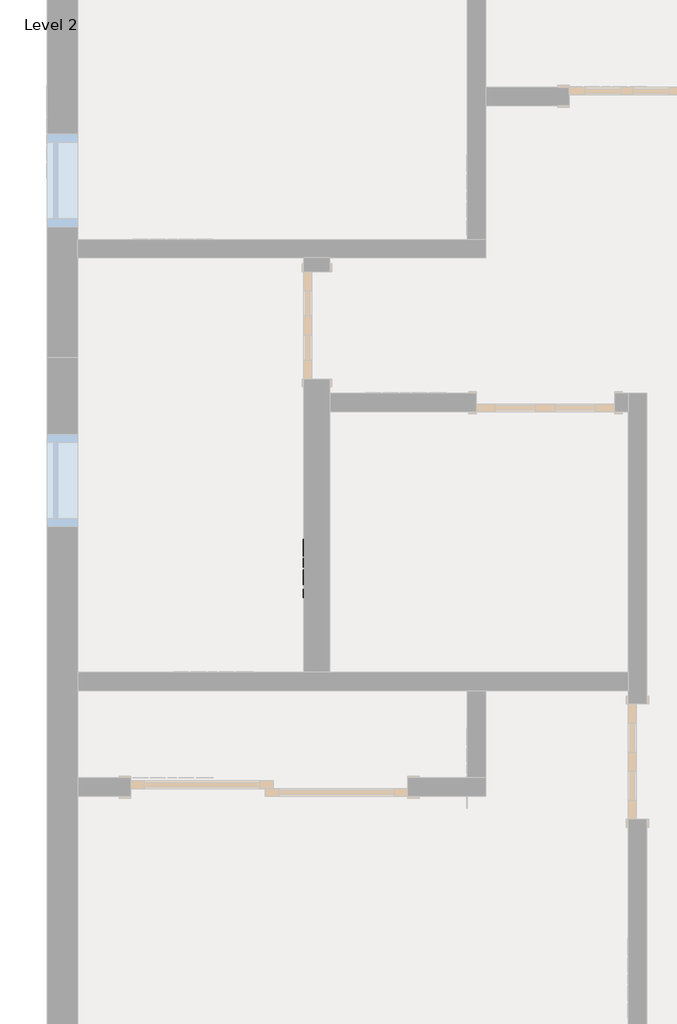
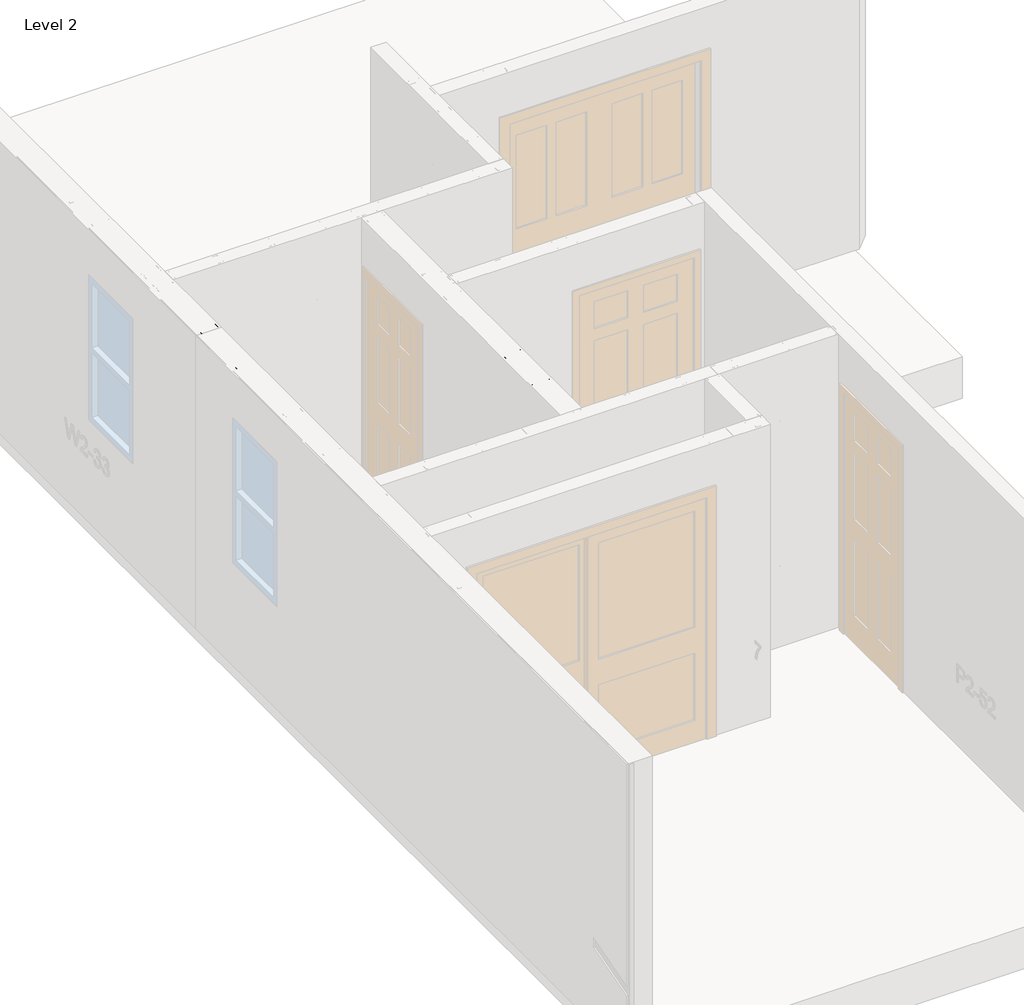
# One storey, part 11 of 46: 6 columns, 2 beams, 1 fastener.
"""IFC4 building model written with IfcOpenShell, lengths in millimetres."""

from ifc_helpers import new_model, si_unit, point, frame, origin, place, context, project, spatial, circle_curve, ellipse_curve, trimmed, transform, mapped, element, save
from ifc_brep_helpers import plane_surface, extruded_surface, advanced_brep
from components import beam_550nf150_33_ca42a238, beam_550nf150_43_6e52a138, panellabel_7068c47f

model = new_model("IFC4")

# Units and contexts
model_context = context("Model", 3, world=origin())
ifc_project = project(units=[si_unit("LENGTHUNIT", "METRE", prefix="MILLI")], contexts=[model_context])

# Site, building, storey
site = spatial("IfcSite", under=ifc_project)
building = spatial("IfcBuilding", under=site)
storey = spatial("IfcBuildingStorey", under=building, Name="Level 2", Elevation=3060.7)

# Beams
placement = place(None, origin())
beam_550nf150_33_shape = beam_550nf150_33_ca42a238(model_context)
element("IfcBeam", 1, ObjectType="BIMSF-SSMA-S : 550NF150-33", at=placement, inside=storey, context=model_context, shape_type="MappedRepresentation", body=[
    mapped(beam_550nf150_33_shape, transform((-13527.2163349, 6789.070971, 3076.575), x_axis=(0.0, 1.0000000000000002, 0.0), y_axis=(0.0, 0.0, -1.0000000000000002), z_axis=(-1.0000000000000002, 0.0, 0.0))),
])
beam_550nf150_43_shape = beam_550nf150_43_6e52a138(model_context)
element("IfcBeam", 2, ObjectType="BIMSF-SSMA-S : 550NF150-43", at=placement, inside=storey, context=model_context, shape_type="MappedRepresentation", body=[
    mapped(beam_550nf150_43_shape, transform((-15194.0913349, 7096.252221, 3905.25), x_axis=(0.0, 1.0, 0.0), y_axis=(0.0, 0.0, 1.0), z_axis=(1.0, 0.0, 0.0))),
])

# Columns
element("IfcColumn", 3, ObjectType="BIMSF-SSMA-S-Column : 550NF150-33", at=placement, inside=storey, context=model_context, shape_type="AdvancedBrep", body=[
    advanced_brep(
    [(-13457.3663349, 6200.902221, 3061.5929687), (-13597.0663349, 6200.902221, 3061.5929687), (-13597.0663349, 6239.002221, 3061.5929687), (-13591.4088191, 6239.002221, 3061.5929687), (-13591.4088191, 6238.1199052, 3061.5929687), (-13596.1840191, 6238.1199052, 3061.5929687), (-13596.1840191, 6201.7845367, 3061.5929687), (-13458.2486507, 6201.7845367, 3061.5929687), (-13458.2486507, 6238.1199052, 3061.5929687), (-13463.0238507, 6238.1199052, 3061.5929687), (-13463.0238507, 6239.002221, 3061.5929687), (-13457.3663349, 6239.002221, 3061.5929687), (-13457.3663349, 6200.902221, 5523.6070313), (-13597.0663349, 6200.902221, 5523.6070313), (-13539.9163349, 6200.902221, 3671.1929687), (-13514.5163349, 6200.902221, 3671.1929687), (-13539.9163349, 6200.902221, 4890.3929687), (-13514.5163349, 6200.902221, 4890.3929687), (-13597.0663349, 6239.002221, 5523.6070313), (-13591.4088191, 6239.002221, 5523.6070313), (-13591.4088191, 6238.1199052, 5523.6070313), (-13596.1840191, 6238.1199052, 5523.6070313), (-13596.1840191, 6201.7845367, 5523.6070313), (-13458.2486507, 6201.7845367, 5523.6070313), (-13514.5163349, 6201.7845367, 3671.1929688), (-13539.9163349, 6201.7845367, 3671.1929688), (-13514.5163349, 6201.7845367, 4890.3929687), (-13539.9163349, 6201.7845367, 4890.3929687), (-13458.2486507, 6238.1199052, 5523.6070313), (-13463.0238507, 6238.1199052, 5523.6070313), (-13463.0238507, 6239.002221, 5523.6070313), (-13457.3663349, 6239.002221, 5523.6070313)],
    [
        (0, 1),
        (1, 2),
        (2, 3),
        (3, 4),
        (4, 5),
        (5, 6),
        (6, 7),
        (7, 8),
        (8, 9),
        (9, 10),
        (10, 11),
        (11, 0),
        (0, 12),
        (12, 13),
        (13, 1),
        (14, 15, circle_curve(frame((-13527.2163349, 6200.902221, 3671.1929688), z_axis=(0.0, 1.0, 0.0), x_axis=(-1.0, 0.0, 0.0)), 12.7)),
        (15, 14, circle_curve(frame((-13527.2163349, 6200.902221, 3671.1929688), z_axis=(0.0, 1.0, 0.0), x_axis=(-1.0, 0.0, 0.0)), 12.7)),
        (16, 17, circle_curve(frame((-13527.2163349, 6200.902221, 4890.3929687), z_axis=(0.0, 1.0, 0.0), x_axis=(-1.0, 0.0, 0.0)), 12.7)),
        (17, 16, circle_curve(frame((-13527.2163349, 6200.902221, 4890.3929687), z_axis=(0.0, 1.0, 0.0), x_axis=(-1.0, 0.0, 0.0)), 12.7)),
        (13, 18),
        (18, 2),
        (18, 19),
        (19, 3),
        (19, 20),
        (20, 4),
        (20, 21),
        (21, 5),
        (21, 22),
        (22, 6),
        (22, 23),
        (23, 7),
        (24, 25, circle_curve(frame((-13527.2163349, 6201.7845367, 3671.1929687), z_axis=(0.0, -1.0, 0.0), x_axis=(-1.0, 0.0, 0.0)), 12.7)),
        (25, 24, circle_curve(frame((-13527.2163349, 6201.7845367, 3671.1929687), z_axis=(0.0, -1.0, 0.0), x_axis=(-1.0, 0.0, 0.0)), 12.7)),
        (26, 27, circle_curve(frame((-13527.2163349, 6201.7845367, 4890.3929687), z_axis=(0.0, -1.0, 0.0), x_axis=(-1.0, 0.0, 0.0)), 12.7)),
        (27, 26, circle_curve(frame((-13527.2163349, 6201.7845367, 4890.3929687), z_axis=(0.0, -1.0, 0.0), x_axis=(-1.0, 0.0, 0.0)), 12.7)),
        (23, 28),
        (28, 8),
        (28, 29),
        (29, 9),
        (29, 30),
        (30, 10),
        (30, 31),
        (31, 11),
        (31, 12),
        (24, 15),
        (14, 25),
        (26, 17),
        (16, 27),
    ],
    [
        plane_surface(frame((-13457.3663349, 6200.902221, 3061.5929687), z_axis=(0.0, 0.0, -1.0), x_axis=(0.0, -1.0, 0.0))),
        plane_surface(frame((-13597.0663349, 6200.902221, 5523.6070313), z_axis=(0.0, -1.0, 0.0), x_axis=(0.0, 0.0, -1.0))),
        plane_surface(frame((-13597.0663349, 6239.002221, 5523.6070313), z_axis=(-1.0, 0.0, 0.0), x_axis=(0.0, 0.0, -1.0))),
        plane_surface(frame((-13591.4088191, 6239.002221, 5523.6070313), z_axis=(0.0, 1.0, 0.0), x_axis=(0.0, 0.0, -1.0))),
        plane_surface(frame((-13591.4088191, 6238.1199052, 5523.6070313), z_axis=(1.0, 0.0, 0.0), x_axis=(0.0, 0.0, -1.0))),
        plane_surface(frame((-13596.1840191, 6238.1199052, 5523.6070313), z_axis=(0.0, -1.0, 0.0), x_axis=(0.0, 0.0, -1.0))),
        plane_surface(frame((-13596.1840191, 6201.7845367, 5523.6070313), z_axis=(1.0, 0.0, 0.0), x_axis=(0.0, 0.0, -1.0))),
        plane_surface(frame((-13458.2486507, 6201.7845367, 5523.6070313), z_axis=(0.0, 1.0, 0.0), x_axis=(0.0, 0.0, -1.0))),
        plane_surface(frame((-13458.2486507, 6238.1199052, 5523.6070313), z_axis=(-1.0, 0.0, 0.0), x_axis=(0.0, 0.0, -1.0))),
        plane_surface(frame((-13463.0238507, 6238.1199052, 5523.6070313), z_axis=(0.0, -1.0, 0.0), x_axis=(0.0, 0.0, -1.0))),
        plane_surface(frame((-13463.0238507, 6239.002221, 5523.6070313), z_axis=(-1.0, 0.0, 0.0), x_axis=(0.0, 0.0, -1.0))),
        plane_surface(frame((-13457.3663349, 6239.002221, 5523.6070313), z_axis=(0.0, 1.0, 0.0), x_axis=(0.0, 0.0, -1.0))),
        plane_surface(frame((-13457.3663349, 6200.902221, 5523.6070313), z_axis=(1.0, 0.0, 0.0), x_axis=(0.0, 0.0, -1.0))),
        plane_surface(frame((-13457.3663349, 6200.902221, 5523.6070313), z_axis=(0.0, 0.0, 1.0), x_axis=(0.0, 1.0, 0.0))),
        extruded_surface(trimmed(ellipse_curve(frame((-13527.2163349, 8681.9662835, 3671.1929688), z_axis=(0.0, -1.0, 0.0), x_axis=(-1.0, 0.0, 0.0)), 12.7, 12.7), [point((-13514.5163349, 8681.9662835, 3671.1929688))], [point((-13539.9163349, 8681.9662835, 3671.1929688))], True, "CARTESIAN"), (0.0, 4924.028125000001, 0.0), 4924.028125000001),
        extruded_surface(trimmed(ellipse_curve(frame((-13527.2163349, 8681.9662835, 3671.1929688), z_axis=(0.0, -1.0, 0.0), x_axis=(-1.0, 0.0, 0.0)), 12.7, 12.7), [point((-13539.9163349, 8681.9662835, 3671.1929688))], [point((-13514.5163349, 8681.9662835, 3671.1929688))], True, "CARTESIAN"), (0.0, 4924.028125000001, 0.0), 4924.028125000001),
        extruded_surface(trimmed(ellipse_curve(frame((-13527.2163349, 8681.9662835, 4890.3929687), z_axis=(0.0, -1.0, 0.0), x_axis=(-1.0, 0.0, 0.0)), 12.7, 12.7), [point((-13514.5163349, 8681.9662835, 4890.3929687))], [point((-13539.9163349, 8681.9662835, 4890.3929687))], True, "CARTESIAN"), (0.0, 4924.028125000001, 0.0), 4924.028125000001),
        extruded_surface(trimmed(ellipse_curve(frame((-13527.2163349, 8681.9662835, 4890.3929687), z_axis=(0.0, -1.0, 0.0), x_axis=(-1.0, 0.0, 0.0)), 12.7, 12.7), [point((-13539.9163349, 8681.9662835, 4890.3929687))], [point((-13514.5163349, 8681.9662835, 4890.3929687))], True, "CARTESIAN"), (0.0, 4924.028125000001, 0.0), 4924.028125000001),
    ],
    [
        (0, [[1, 2, 3, 4, 5, 6, 7, 8, 9, 10, 11, 12]]),
        (1, [[-1, 13, 14, 15], [16, 17], [18, 19]]),
        (2, [[-2, -15, 20, 21]]),
        (3, [[-3, -21, 22, 23]]),
        (4, [[-4, -23, 24, 25]]),
        (5, [[-5, -25, 26, 27]]),
        (6, [[-6, -27, 28, 29]]),
        (7, [[-7, -29, 30, 31], [32, 33], [34, 35]]),
        (8, [[-8, -31, 36, 37]]),
        (9, [[-9, -37, 38, 39]]),
        (10, [[-10, -39, 40, 41]]),
        (11, [[-11, -41, 42, 43]]),
        (12, [[-12, -43, 44, -13]]),
        (13, [[-14, -44, -42, -40, -38, -36, -30, -28, -26, -24, -22, -20]]),
        (14, [[45, -16, 46, -32]]),
        (15, [[-45, -33, -46, -17]]),
        (16, [[47, -18, 48, -34]]),
        (17, [[-47, -35, -48, -19]]),
    ],
),
])
element("IfcColumn", 4, ObjectType="BIMSF-SSMA-S-Column : 550NF150-33", at=placement, inside=storey, context=model_context, shape_type="AdvancedBrep", body=[
    advanced_brep(
    [(-13457.3663349, 6607.302221, 3061.5929687), (-13597.0663349, 6607.302221, 3061.5929687), (-13597.0663349, 6645.402221, 3061.5929687), (-13591.4088191, 6645.402221, 3061.5929687), (-13591.4088191, 6644.5199052, 3061.5929687), (-13596.1840191, 6644.5199052, 3061.5929687), (-13596.1840191, 6608.1845367, 3061.5929687), (-13458.2486507, 6608.1845367, 3061.5929687), (-13458.2486507, 6644.5199052, 3061.5929687), (-13463.0238507, 6644.5199052, 3061.5929687), (-13463.0238507, 6645.402221, 3061.5929687), (-13457.3663349, 6645.402221, 3061.5929687), (-13457.3663349, 6607.302221, 5523.6070313), (-13597.0663349, 6607.302221, 5523.6070313), (-13539.9163349, 6607.302221, 3671.1929687), (-13514.5163349, 6607.302221, 3671.1929687), (-13539.9163349, 6607.302221, 4890.3929687), (-13514.5163349, 6607.302221, 4890.3929687), (-13597.0663349, 6645.402221, 5523.6070313), (-13591.4088191, 6645.402221, 5523.6070313), (-13591.4088191, 6644.5199052, 5523.6070313), (-13596.1840191, 6644.5199052, 5523.6070313), (-13596.1840191, 6608.1845367, 5523.6070313), (-13458.2486507, 6608.1845367, 5523.6070313), (-13514.5163349, 6608.1845367, 3671.1929688), (-13539.9163349, 6608.1845367, 3671.1929688), (-13514.5163349, 6608.1845367, 4890.3929687), (-13539.9163349, 6608.1845367, 4890.3929687), (-13458.2486507, 6644.5199052, 5523.6070313), (-13463.0238507, 6644.5199052, 5523.6070313), (-13463.0238507, 6645.402221, 5523.6070313), (-13457.3663349, 6645.402221, 5523.6070313)],
    [
        (0, 1),
        (1, 2),
        (2, 3),
        (3, 4),
        (4, 5),
        (5, 6),
        (6, 7),
        (7, 8),
        (8, 9),
        (9, 10),
        (10, 11),
        (11, 0),
        (0, 12),
        (12, 13),
        (13, 1),
        (14, 15, circle_curve(frame((-13527.2163349, 6607.302221, 3671.1929688), z_axis=(0.0, 1.0, 0.0), x_axis=(-1.0, 0.0, 0.0)), 12.7)),
        (15, 14, circle_curve(frame((-13527.2163349, 6607.302221, 3671.1929688), z_axis=(0.0, 1.0, 0.0), x_axis=(-1.0, 0.0, 0.0)), 12.7)),
        (16, 17, circle_curve(frame((-13527.2163349, 6607.302221, 4890.3929687), z_axis=(0.0, 1.0, 0.0), x_axis=(-1.0, 0.0, 0.0)), 12.7)),
        (17, 16, circle_curve(frame((-13527.2163349, 6607.302221, 4890.3929687), z_axis=(0.0, 1.0, 0.0), x_axis=(-1.0, 0.0, 0.0)), 12.7)),
        (13, 18),
        (18, 2),
        (18, 19),
        (19, 3),
        (19, 20),
        (20, 4),
        (20, 21),
        (21, 5),
        (21, 22),
        (22, 6),
        (22, 23),
        (23, 7),
        (24, 25, circle_curve(frame((-13527.2163349, 6608.1845367, 3671.1929687), z_axis=(0.0, -1.0, 0.0), x_axis=(-1.0, 0.0, 0.0)), 12.7)),
        (25, 24, circle_curve(frame((-13527.2163349, 6608.1845367, 3671.1929687), z_axis=(0.0, -1.0, 0.0), x_axis=(-1.0, 0.0, 0.0)), 12.7)),
        (26, 27, circle_curve(frame((-13527.2163349, 6608.1845367, 4890.3929687), z_axis=(0.0, -1.0, 0.0), x_axis=(-1.0, 0.0, 0.0)), 12.7)),
        (27, 26, circle_curve(frame((-13527.2163349, 6608.1845367, 4890.3929687), z_axis=(0.0, -1.0, 0.0), x_axis=(-1.0, 0.0, 0.0)), 12.7)),
        (23, 28),
        (28, 8),
        (28, 29),
        (29, 9),
        (29, 30),
        (30, 10),
        (30, 31),
        (31, 11),
        (31, 12),
        (24, 15),
        (14, 25),
        (26, 17),
        (16, 27),
    ],
    [
        plane_surface(frame((-13457.3663349, 6607.302221, 3061.5929687), z_axis=(0.0, 0.0, -1.0), x_axis=(0.0, -1.0, 0.0))),
        plane_surface(frame((-13597.0663349, 6607.302221, 5523.6070313), z_axis=(0.0, -1.0, 0.0), x_axis=(0.0, 0.0, -1.0))),
        plane_surface(frame((-13597.0663349, 6645.402221, 5523.6070313), z_axis=(-1.0, 0.0, 0.0), x_axis=(0.0, 0.0, -1.0))),
        plane_surface(frame((-13591.4088191, 6645.402221, 5523.6070313), z_axis=(0.0, 1.0, 0.0), x_axis=(0.0, 0.0, -1.0))),
        plane_surface(frame((-13591.4088191, 6644.5199052, 5523.6070313), z_axis=(1.0, 0.0, 0.0), x_axis=(0.0, 0.0, -1.0))),
        plane_surface(frame((-13596.1840191, 6644.5199052, 5523.6070313), z_axis=(0.0, -1.0, 0.0), x_axis=(0.0, 0.0, -1.0))),
        plane_surface(frame((-13596.1840191, 6608.1845367, 5523.6070313), z_axis=(1.0, 0.0, 0.0), x_axis=(0.0, 0.0, -1.0))),
        plane_surface(frame((-13458.2486507, 6608.1845367, 5523.6070313), z_axis=(0.0, 1.0, 0.0), x_axis=(0.0, 0.0, -1.0))),
        plane_surface(frame((-13458.2486507, 6644.5199052, 5523.6070313), z_axis=(-1.0, 0.0, 0.0), x_axis=(0.0, 0.0, -1.0))),
        plane_surface(frame((-13463.0238507, 6644.5199052, 5523.6070313), z_axis=(0.0, -1.0, 0.0), x_axis=(0.0, 0.0, -1.0))),
        plane_surface(frame((-13463.0238507, 6645.402221, 5523.6070313), z_axis=(-1.0, 0.0, 0.0), x_axis=(0.0, 0.0, -1.0))),
        plane_surface(frame((-13457.3663349, 6645.402221, 5523.6070313), z_axis=(0.0, 1.0, 0.0), x_axis=(0.0, 0.0, -1.0))),
        plane_surface(frame((-13457.3663349, 6607.302221, 5523.6070313), z_axis=(1.0, 0.0, 0.0), x_axis=(0.0, 0.0, -1.0))),
        plane_surface(frame((-13457.3663349, 6607.302221, 5523.6070313), z_axis=(0.0, 0.0, 1.0), x_axis=(0.0, 1.0, 0.0))),
        extruded_surface(trimmed(ellipse_curve(frame((-13527.2163349, 9088.3662835, 3671.1929688), z_axis=(0.0, -1.0, 0.0), x_axis=(-1.0, 0.0, 0.0)), 12.7, 12.7), [point((-13514.5163349, 9088.3662835, 3671.1929688))], [point((-13539.9163349, 9088.3662835, 3671.1929688))], True, "CARTESIAN"), (0.0, 4924.028125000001, 0.0), 4924.028125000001),
        extruded_surface(trimmed(ellipse_curve(frame((-13527.2163349, 9088.3662835, 3671.1929688), z_axis=(0.0, -1.0, 0.0), x_axis=(-1.0, 0.0, 0.0)), 12.7, 12.7), [point((-13539.9163349, 9088.3662835, 3671.1929688))], [point((-13514.5163349, 9088.3662835, 3671.1929688))], True, "CARTESIAN"), (0.0, 4924.028125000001, 0.0), 4924.028125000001),
        extruded_surface(trimmed(ellipse_curve(frame((-13527.2163349, 9088.3662835, 4890.3929687), z_axis=(0.0, -1.0, 0.0), x_axis=(-1.0, 0.0, 0.0)), 12.7, 12.7), [point((-13514.5163349, 9088.3662835, 4890.3929687))], [point((-13539.9163349, 9088.3662835, 4890.3929687))], True, "CARTESIAN"), (0.0, 4924.028125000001, 0.0), 4924.028125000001),
        extruded_surface(trimmed(ellipse_curve(frame((-13527.2163349, 9088.3662835, 4890.3929687), z_axis=(0.0, -1.0, 0.0), x_axis=(-1.0, 0.0, 0.0)), 12.7, 12.7), [point((-13539.9163349, 9088.3662835, 4890.3929687))], [point((-13514.5163349, 9088.3662835, 4890.3929687))], True, "CARTESIAN"), (0.0, 4924.028125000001, 0.0), 4924.028125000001),
    ],
    [
        (0, [[1, 2, 3, 4, 5, 6, 7, 8, 9, 10, 11, 12]]),
        (1, [[-1, 13, 14, 15], [16, 17], [18, 19]]),
        (2, [[-2, -15, 20, 21]]),
        (3, [[-3, -21, 22, 23]]),
        (4, [[-4, -23, 24, 25]]),
        (5, [[-5, -25, 26, 27]]),
        (6, [[-6, -27, 28, 29]]),
        (7, [[-7, -29, 30, 31], [32, 33], [34, 35]]),
        (8, [[-8, -31, 36, 37]]),
        (9, [[-9, -37, 38, 39]]),
        (10, [[-10, -39, 40, 41]]),
        (11, [[-11, -41, 42, 43]]),
        (12, [[-12, -43, 44, -13]]),
        (13, [[-14, -44, -42, -40, -38, -36, -30, -28, -26, -24, -22, -20]]),
        (14, [[45, -16, 46, -32]]),
        (15, [[-45, -33, -46, -17]]),
        (16, [[47, -18, 48, -34]]),
        (17, [[-47, -35, -48, -19]]),
    ],
),
])
element("IfcColumn", 5, ObjectType="BIMSF-SSMA-S-Column : 550NF150-43", at=placement, inside=storey, context=model_context, shape_type="AdvancedBrep", body=[
    advanced_brep(
    [(-15124.2413349, 7401.052221, 3061.5929687), (-15263.9413349, 7401.052221, 3061.5929687), (-15263.9413349, 7439.152221, 3061.5929687), (-15258.0164507, 7439.152221, 3061.5929687), (-15258.0164507, 7438.0025367, 3061.5929687), (-15262.7916507, 7438.0025367, 3061.5929687), (-15262.7916507, 7402.2019052, 3061.5929687), (-15125.3910191, 7402.2019052, 3061.5929687), (-15125.3910191, 7438.0025367, 3061.5929687), (-15130.1662191, 7438.0025367, 3061.5929687), (-15130.1662191, 7439.152221, 3061.5929687), (-15124.2413349, 7439.152221, 3061.5929687), (-15124.2413349, 7401.052221, 5523.6070313), (-15263.9413349, 7401.052221, 5523.6070313), (-15206.7913349, 7401.052221, 3671.1929688), (-15181.3913349, 7401.052221, 3671.1929688), (-15206.7913349, 7401.052221, 4890.3929688), (-15181.3913349, 7401.052221, 4890.3929687), (-15263.9413349, 7439.152221, 5523.6070313), (-15258.0164507, 7439.152221, 5523.6070313), (-15258.0164507, 7438.0025367, 5523.6070313), (-15262.7916507, 7438.0025367, 5523.6070313), (-15262.7916507, 7402.2019052, 5523.6070313), (-15125.3910191, 7402.2019052, 5523.6070313), (-15181.3913349, 7402.2019052, 3671.1929688), (-15206.7913349, 7402.2019052, 3671.1929688), (-15181.3913349, 7402.2019052, 4890.3929688), (-15206.7913349, 7402.2019052, 4890.3929688), (-15125.3910191, 7438.0025367, 5523.6070313), (-15130.1662191, 7438.0025367, 5523.6070313), (-15130.1662191, 7439.152221, 5523.6070313), (-15124.2413349, 7439.152221, 5523.6070313)],
    [
        (0, 1),
        (1, 2),
        (2, 3),
        (3, 4),
        (4, 5),
        (5, 6),
        (6, 7),
        (7, 8),
        (8, 9),
        (9, 10),
        (10, 11),
        (11, 0),
        (0, 12),
        (12, 13),
        (13, 1),
        (14, 15, circle_curve(frame((-15194.0913349, 7401.052221, 3671.1929687), z_axis=(0.0, 1.0, 0.0), x_axis=(-1.0, 0.0, 0.0)), 12.7)),
        (15, 14, circle_curve(frame((-15194.0913349, 7401.052221, 3671.1929688), z_axis=(0.0, 1.0, 0.0), x_axis=(-1.0, 0.0, 0.0)), 12.7)),
        (16, 17, circle_curve(frame((-15194.0913349, 7401.052221, 4890.3929687), z_axis=(0.0, 1.0, 0.0), x_axis=(-1.0, 0.0, 0.0)), 12.7)),
        (17, 16, circle_curve(frame((-15194.0913349, 7401.052221, 4890.3929687), z_axis=(0.0, 1.0, 0.0), x_axis=(-1.0, 0.0, 0.0)), 12.7)),
        (13, 18),
        (18, 2),
        (18, 19),
        (19, 3),
        (19, 20),
        (20, 4),
        (20, 21),
        (21, 5),
        (21, 22),
        (22, 6),
        (22, 23),
        (23, 7),
        (24, 25, circle_curve(frame((-15194.0913349, 7402.2019052, 3671.1929688), z_axis=(0.0, -1.0, 0.0), x_axis=(-1.0, 0.0, 0.0)), 12.7)),
        (25, 24, circle_curve(frame((-15194.0913349, 7402.2019052, 3671.1929687), z_axis=(0.0, -1.0, 0.0), x_axis=(-1.0, 0.0, 0.0)), 12.7)),
        (26, 27, circle_curve(frame((-15194.0913349, 7402.2019052, 4890.3929687), z_axis=(0.0, -1.0, 0.0), x_axis=(-1.0, 0.0, 0.0)), 12.7)),
        (27, 26, circle_curve(frame((-15194.0913349, 7402.2019052, 4890.3929687), z_axis=(0.0, -1.0, 0.0), x_axis=(-1.0, 0.0, 0.0)), 12.7)),
        (23, 28),
        (28, 8),
        (28, 29),
        (29, 9),
        (29, 30),
        (30, 10),
        (30, 31),
        (31, 11),
        (31, 12),
        (24, 15),
        (14, 25),
        (26, 17),
        (16, 27),
    ],
    [
        plane_surface(frame((-15124.2413349, 7401.052221, 3061.5929687), z_axis=(0.0, 0.0, -1.0), x_axis=(0.0, -1.0, 0.0))),
        plane_surface(frame((-15263.9413349, 7401.052221, 5523.6070313), z_axis=(0.0, -1.0, 0.0), x_axis=(0.0, 0.0, -1.0))),
        plane_surface(frame((-15263.9413349, 7439.152221, 5523.6070313), z_axis=(-1.0, 0.0, 0.0), x_axis=(0.0, 0.0, -1.0))),
        plane_surface(frame((-15258.0164507, 7439.152221, 5523.6070313), z_axis=(0.0, 1.0, 0.0), x_axis=(0.0, 0.0, -1.0))),
        plane_surface(frame((-15258.0164507, 7438.0025367, 5523.6070313), z_axis=(1.0, 0.0, 0.0), x_axis=(0.0, 0.0, -1.0))),
        plane_surface(frame((-15262.7916507, 7438.0025367, 5523.6070313), z_axis=(0.0, -1.0, 0.0), x_axis=(0.0, 0.0, -1.0))),
        plane_surface(frame((-15262.7916507, 7402.2019052, 5523.6070313), z_axis=(1.0, 0.0, 0.0), x_axis=(0.0, 0.0, -1.0))),
        plane_surface(frame((-15125.3910191, 7402.2019052, 5523.6070313), z_axis=(0.0, 1.0, 0.0), x_axis=(0.0, 0.0, -1.0))),
        plane_surface(frame((-15125.3910191, 7438.0025367, 5523.6070313), z_axis=(-1.0, 0.0, 0.0), x_axis=(0.0, 0.0, -1.0))),
        plane_surface(frame((-15130.1662191, 7438.0025367, 5523.6070313), z_axis=(0.0, -1.0, 0.0), x_axis=(0.0, 0.0, -1.0))),
        plane_surface(frame((-15130.1662191, 7439.152221, 5523.6070313), z_axis=(-1.0, 0.0, 0.0), x_axis=(0.0, 0.0, -1.0))),
        plane_surface(frame((-15124.2413349, 7439.152221, 5523.6070313), z_axis=(0.0, 1.0, 0.0), x_axis=(0.0, 0.0, -1.0))),
        plane_surface(frame((-15124.2413349, 7401.052221, 5523.6070313), z_axis=(1.0, 0.0, 0.0), x_axis=(0.0, 0.0, -1.0))),
        plane_surface(frame((-15124.2413349, 7401.052221, 5523.6070313), z_axis=(0.0, 0.0, 1.0), x_axis=(0.0, 1.0, 0.0))),
        extruded_surface(trimmed(ellipse_curve(frame((-15194.0913349, 9882.1162835, 3671.1929688), z_axis=(0.0, -1.0, 0.0), x_axis=(-1.0, 0.0, 0.0)), 12.7, 12.7), [point((-15181.3913349, 9882.1162835, 3671.1929688))], [point((-15206.7913349, 9882.1162835, 3671.1929688))], True, "CARTESIAN"), (0.0, 4924.028125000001, 0.0), 4924.028125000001),
        extruded_surface(trimmed(ellipse_curve(frame((-15194.0913349, 9882.1162835, 3671.1929688), z_axis=(0.0, -1.0, 0.0), x_axis=(-1.0, 0.0, 0.0)), 12.7, 12.7), [point((-15206.7913349, 9882.1162835, 3671.1929688))], [point((-15181.3913349, 9882.1162835, 3671.1929688))], True, "CARTESIAN"), (0.0, 4924.028125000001, 0.0), 4924.028125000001),
        extruded_surface(trimmed(ellipse_curve(frame((-15194.0913349, 9882.1162835, 4890.3929687), z_axis=(0.0, -1.0, 0.0), x_axis=(-1.0, 0.0, 0.0)), 12.7, 12.7), [point((-15181.3913349, 9882.1162835, 4890.3929687))], [point((-15206.7913349, 9882.1162835, 4890.3929687))], True, "CARTESIAN"), (0.0, 4924.028125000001, 0.0), 4924.028125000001),
        extruded_surface(trimmed(ellipse_curve(frame((-15194.0913349, 9882.1162835, 4890.3929687), z_axis=(0.0, -1.0, 0.0), x_axis=(-1.0, 0.0, 0.0)), 12.7, 12.7), [point((-15206.7913349, 9882.1162835, 4890.3929687))], [point((-15181.3913349, 9882.1162835, 4890.3929687))], True, "CARTESIAN"), (0.0, 4924.028125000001, 0.0), 4924.028125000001),
    ],
    [
        (0, [[1, 2, 3, 4, 5, 6, 7, 8, 9, 10, 11, 12]]),
        (1, [[-1, 13, 14, 15], [16, 17], [18, 19]]),
        (2, [[-2, -15, 20, 21]]),
        (3, [[-3, -21, 22, 23]]),
        (4, [[-4, -23, 24, 25]]),
        (5, [[-5, -25, 26, 27]]),
        (6, [[-6, -27, 28, 29]]),
        (7, [[-7, -29, 30, 31], [32, 33], [34, 35]]),
        (8, [[-8, -31, 36, 37]]),
        (9, [[-9, -37, 38, 39]]),
        (10, [[-10, -39, 40, 41]]),
        (11, [[-11, -41, 42, 43]]),
        (12, [[-12, -43, 44, -13]]),
        (13, [[-14, -44, -42, -40, -38, -36, -30, -28, -26, -24, -22, -20]]),
        (14, [[45, -16, 46, -32]]),
        (15, [[-45, -33, -46, -17]]),
        (16, [[47, -18, 48, -34]]),
        (17, [[-47, -35, -48, -19]]),
    ],
),
])
element("IfcColumn", 6, ObjectType="BIMSF-SSMA-S-Column : 550NF150-43", at=placement, inside=storey, context=model_context, shape_type="AdvancedBrep", body=[
    advanced_brep(
    [(-15263.9413349, 7962.4815274, 3061.5929687), (-15124.2413349, 7962.4815274, 3061.5929687), (-15124.2413349, 7924.3815274, 3061.5929687), (-15130.1662191, 7924.3815274, 3061.5929687), (-15130.1662191, 7925.5312116, 3061.5929687), (-15125.3910191, 7925.5312116, 3061.5929687), (-15125.3910191, 7961.3318431, 3061.5929687), (-15262.7916507, 7961.3318431, 3061.5929687), (-15262.7916507, 7925.5312116, 3061.5929687), (-15258.0164507, 7925.5312116, 3061.5929687), (-15258.0164507, 7924.3815274, 3061.5929687), (-15263.9413349, 7924.3815274, 3061.5929687), (-15263.9413349, 7962.4815274, 5523.6070313), (-15124.2413349, 7962.4815274, 5523.6070313), (-15181.3913349, 7962.4815274, 3671.1929687), (-15206.7913349, 7962.4815274, 3671.1929687), (-15181.3913349, 7962.4815274, 4890.3929687), (-15206.7913349, 7962.4815274, 4890.3929687), (-15124.2413349, 7924.3815274, 5523.6070313), (-15130.1662191, 7924.3815274, 5523.6070313), (-15130.1662191, 7925.5312116, 5523.6070313), (-15125.3910191, 7925.5312116, 5523.6070313), (-15125.3910191, 7961.3318431, 5523.6070313), (-15262.7916507, 7961.3318431, 5523.6070313), (-15206.7913349, 7961.3318431, 3671.1929688), (-15181.3913349, 7961.3318431, 3671.1929688), (-15206.7913349, 7961.3318431, 4890.3929687), (-15181.3913349, 7961.3318431, 4890.3929687), (-15262.7916507, 7925.5312116, 5523.6070313), (-15258.0164507, 7925.5312116, 5523.6070313), (-15258.0164507, 7924.3815274, 5523.6070313), (-15263.9413349, 7924.3815274, 5523.6070313)],
    [
        (0, 1),
        (1, 2),
        (2, 3),
        (3, 4),
        (4, 5),
        (5, 6),
        (6, 7),
        (7, 8),
        (8, 9),
        (9, 10),
        (10, 11),
        (11, 0),
        (0, 12),
        (12, 13),
        (13, 1),
        (14, 15, circle_curve(frame((-15194.0913349, 7962.4815274, 3671.1929688), z_axis=(0.0, -1.0, 0.0), x_axis=(1.0, 0.0, 0.0)), 12.7)),
        (15, 14, circle_curve(frame((-15194.0913349, 7962.4815274, 3671.1929688), z_axis=(0.0, -1.0, 0.0), x_axis=(1.0, 0.0, 0.0)), 12.7)),
        (16, 17, circle_curve(frame((-15194.0913349, 7962.4815274, 4890.3929687), z_axis=(0.0, -1.0, 0.0), x_axis=(1.0, 0.0, 0.0)), 12.7)),
        (17, 16, circle_curve(frame((-15194.0913349, 7962.4815274, 4890.3929687), z_axis=(0.0, -1.0, 0.0), x_axis=(1.0, 0.0, 0.0)), 12.7)),
        (13, 18),
        (18, 2),
        (18, 19),
        (19, 3),
        (19, 20),
        (20, 4),
        (20, 21),
        (21, 5),
        (21, 22),
        (22, 6),
        (22, 23),
        (23, 7),
        (24, 25, circle_curve(frame((-15194.0913349, 7961.3318431, 3671.1929688), z_axis=(0.0, 1.0, 0.0), x_axis=(1.0, 0.0, 0.0)), 12.7)),
        (25, 24, circle_curve(frame((-15194.0913349, 7961.3318431, 3671.1929688), z_axis=(0.0, 1.0, 0.0), x_axis=(1.0, 0.0, 0.0)), 12.7)),
        (26, 27, circle_curve(frame((-15194.0913349, 7961.3318431, 4890.3929687), z_axis=(0.0, 1.0, 0.0), x_axis=(1.0, 0.0, 0.0)), 12.7)),
        (27, 26, circle_curve(frame((-15194.0913349, 7961.3318431, 4890.3929687), z_axis=(0.0, 1.0, 0.0), x_axis=(1.0, 0.0, 0.0)), 12.7)),
        (23, 28),
        (28, 8),
        (28, 29),
        (29, 9),
        (29, 30),
        (30, 10),
        (30, 31),
        (31, 11),
        (31, 12),
        (24, 15),
        (14, 25),
        (26, 17),
        (16, 27),
    ],
    [
        plane_surface(frame((-15263.9413349, 7962.4815274, 3061.5929687), z_axis=(0.0, 0.0, -1.0), x_axis=(0.0, 1.0, 0.0))),
        plane_surface(frame((-15124.2413349, 7962.4815274, 5523.6070313), z_axis=(0.0, 1.0, 0.0), x_axis=(0.0, 0.0, -1.0))),
        plane_surface(frame((-15124.2413349, 7924.3815274, 5523.6070313), z_axis=(1.0, 0.0, 0.0), x_axis=(0.0, 0.0, -1.0))),
        plane_surface(frame((-15130.1662191, 7924.3815274, 5523.6070313), z_axis=(0.0, -1.0, 0.0), x_axis=(0.0, 0.0, -1.0))),
        plane_surface(frame((-15130.1662191, 7925.5312116, 5523.6070313), z_axis=(-1.0, 0.0, 0.0), x_axis=(0.0, 0.0, -1.0))),
        plane_surface(frame((-15125.3910191, 7925.5312116, 5523.6070313), z_axis=(0.0, 1.0, 0.0), x_axis=(0.0, 0.0, -1.0))),
        plane_surface(frame((-15125.3910191, 7961.3318431, 5523.6070313), z_axis=(-1.0, 0.0, 0.0), x_axis=(0.0, 0.0, -1.0))),
        plane_surface(frame((-15262.7916507, 7961.3318431, 5523.6070313), z_axis=(0.0, -1.0, 0.0), x_axis=(0.0, 0.0, -1.0))),
        plane_surface(frame((-15262.7916507, 7925.5312116, 5523.6070313), z_axis=(1.0, 0.0, 0.0), x_axis=(0.0, 0.0, -1.0))),
        plane_surface(frame((-15258.0164507, 7925.5312116, 5523.6070313), z_axis=(0.0, 1.0, 0.0), x_axis=(0.0, 0.0, -1.0))),
        plane_surface(frame((-15258.0164507, 7924.3815274, 5523.6070313), z_axis=(1.0, 0.0, 0.0), x_axis=(0.0, 0.0, -1.0))),
        plane_surface(frame((-15263.9413349, 7924.3815274, 5523.6070313), z_axis=(0.0, -1.0, 0.0), x_axis=(0.0, 0.0, -1.0))),
        plane_surface(frame((-15263.9413349, 7962.4815274, 5523.6070313), z_axis=(-1.0, 0.0, 0.0), x_axis=(0.0, 0.0, -1.0))),
        plane_surface(frame((-15263.9413349, 7962.4815274, 5523.6070313), z_axis=(0.0, 0.0, 1.0), x_axis=(0.0, -1.0, 0.0))),
        extruded_surface(trimmed(ellipse_curve(frame((-15194.0913349, 5481.4174649, 3671.1929688), z_axis=(0.0, 1.0, 0.0), x_axis=(1.0, 0.0, 0.0)), 12.7, 12.7), [point((-15206.7913349, 5481.4174649, 3671.1929688))], [point((-15181.3913349, 5481.4174649, 3671.1929688))], True, "CARTESIAN"), (0.0, -4924.028125, 0.0), 4924.028125),
        extruded_surface(trimmed(ellipse_curve(frame((-15194.0913349, 5481.4174649, 3671.1929688), z_axis=(0.0, 1.0, 0.0), x_axis=(1.0, 0.0, 0.0)), 12.7, 12.7), [point((-15181.3913349, 5481.4174649, 3671.1929688))], [point((-15206.7913349, 5481.4174649, 3671.1929688))], True, "CARTESIAN"), (0.0, -4924.028125, 0.0), 4924.028125),
        extruded_surface(trimmed(ellipse_curve(frame((-15194.0913349, 5481.4174649, 4890.3929687), z_axis=(0.0, 1.0, 0.0), x_axis=(1.0, 0.0, 0.0)), 12.7, 12.7), [point((-15206.7913349, 5481.4174649, 4890.3929687))], [point((-15181.3913349, 5481.4174649, 4890.3929687))], True, "CARTESIAN"), (0.0, -4924.028125, 0.0), 4924.028125),
        extruded_surface(trimmed(ellipse_curve(frame((-15194.0913349, 5481.4174649, 4890.3929687), z_axis=(0.0, 1.0, 0.0), x_axis=(1.0, 0.0, 0.0)), 12.7, 12.7), [point((-15181.3913349, 5481.4174649, 4890.3929687))], [point((-15206.7913349, 5481.4174649, 4890.3929687))], True, "CARTESIAN"), (0.0, -4924.028125, 0.0), 4924.028125),
    ],
    [
        (0, [[1, 2, 3, 4, 5, 6, 7, 8, 9, 10, 11, 12]]),
        (1, [[-1, 13, 14, 15], [16, 17], [18, 19]]),
        (2, [[-2, -15, 20, 21]]),
        (3, [[-3, -21, 22, 23]]),
        (4, [[-4, -23, 24, 25]]),
        (5, [[-5, -25, 26, 27]]),
        (6, [[-6, -27, 28, 29]]),
        (7, [[-7, -29, 30, 31], [32, 33], [34, 35]]),
        (8, [[-8, -31, 36, 37]]),
        (9, [[-9, -37, 38, 39]]),
        (10, [[-10, -39, 40, 41]]),
        (11, [[-11, -41, 42, 43]]),
        (12, [[-12, -43, 44, -13]]),
        (13, [[-14, -44, -42, -40, -38, -36, -30, -28, -26, -24, -22, -20]]),
        (14, [[45, -16, 46, -32]]),
        (15, [[-45, -33, -46, -17]]),
        (16, [[47, -18, 48, -34]]),
        (17, [[-47, -35, -48, -19]]),
    ],
),
])
element("IfcColumn", 7, ObjectType="BIMSF-SSMA-S-Column : 550NF150-43", at=placement, inside=storey, context=model_context, shape_type="AdvancedBrep", body=[
    advanced_brep(
    [(-15124.2413349, 6810.502221, 3061.5929687), (-15263.9413349, 6810.502221, 3061.5929687), (-15263.9413349, 6848.602221, 3061.5929687), (-15258.0164507, 6848.602221, 3061.5929687), (-15258.0164507, 6847.4525367, 3061.5929687), (-15262.7916507, 6847.4525367, 3061.5929687), (-15262.7916507, 6811.6519052, 3061.5929687), (-15125.3910191, 6811.6519052, 3061.5929687), (-15125.3910191, 6847.4525367, 3061.5929687), (-15130.1662191, 6847.4525367, 3061.5929687), (-15130.1662191, 6848.602221, 3061.5929687), (-15124.2413349, 6848.602221, 3061.5929687), (-15124.2413349, 6810.502221, 3920.2320313), (-15263.9413349, 6810.502221, 3920.2320313), (-15206.7913349, 6810.502221, 3366.3929688), (-15181.3913349, 6810.502221, 3366.3929688), (-15263.9413349, 6848.602221, 3920.2320313), (-15258.0164507, 6848.602221, 3920.2320313), (-15258.0164507, 6847.4525367, 3920.2320313), (-15262.7916507, 6847.4525367, 3920.2320313), (-15262.7916507, 6811.6519052, 3920.2320313), (-15125.3910191, 6811.6519052, 3920.2320313), (-15181.3913349, 6811.6519052, 3366.3929687), (-15206.7913349, 6811.6519052, 3366.3929687), (-15125.3910191, 6847.4525367, 3920.2320313), (-15130.1662191, 6847.4525367, 3920.2320313), (-15130.1662191, 6848.602221, 3920.2320313), (-15124.2413349, 6848.602221, 3920.2320313)],
    [
        (0, 1),
        (1, 2),
        (2, 3),
        (3, 4),
        (4, 5),
        (5, 6),
        (6, 7),
        (7, 8),
        (8, 9),
        (9, 10),
        (10, 11),
        (11, 0),
        (0, 12),
        (12, 13),
        (13, 1),
        (14, 15, circle_curve(frame((-15194.0913349, 6810.502221, 3366.3929687), z_axis=(0.0, 1.0, 0.0), x_axis=(-1.0, 0.0, 0.0)), 12.7)),
        (15, 14, circle_curve(frame((-15194.0913349, 6810.502221, 3366.3929687), z_axis=(0.0, 1.0, 0.0), x_axis=(-1.0, 0.0, 0.0)), 12.7)),
        (13, 16),
        (16, 2),
        (16, 17),
        (17, 3),
        (17, 18),
        (18, 4),
        (18, 19),
        (19, 5),
        (19, 20),
        (20, 6),
        (20, 21),
        (21, 7),
        (22, 23, circle_curve(frame((-15194.0913349, 6811.6519052, 3366.3929687), z_axis=(0.0, -1.0, 0.0), x_axis=(-1.0, 0.0, 0.0)), 12.7)),
        (23, 22, circle_curve(frame((-15194.0913349, 6811.6519052, 3366.3929687), z_axis=(0.0, -1.0, 0.0), x_axis=(-1.0, 0.0, 0.0)), 12.7)),
        (21, 24),
        (24, 8),
        (24, 25),
        (25, 9),
        (25, 26),
        (26, 10),
        (26, 27),
        (27, 11),
        (27, 12),
        (22, 15),
        (14, 23),
    ],
    [
        plane_surface(frame((-15124.2413349, 6810.502221, 3061.5929687), z_axis=(0.0, 0.0, -1.0), x_axis=(0.0, -1.0, 0.0))),
        plane_surface(frame((-15263.9413349, 6810.502221, 3920.2320313), z_axis=(0.0, -1.0, 0.0), x_axis=(0.0, 0.0, -1.0))),
        plane_surface(frame((-15263.9413349, 6848.602221, 3920.2320313), z_axis=(-1.0, 0.0, 0.0), x_axis=(0.0, 0.0, -1.0))),
        plane_surface(frame((-15258.0164507, 6848.602221, 3920.2320313), z_axis=(0.0, 1.0, 0.0), x_axis=(0.0, 0.0, -1.0))),
        plane_surface(frame((-15258.0164507, 6847.4525367, 3920.2320313), z_axis=(1.0, 0.0, 0.0), x_axis=(0.0, 0.0, -1.0))),
        plane_surface(frame((-15262.7916507, 6847.4525367, 3920.2320313), z_axis=(0.0, -1.0, 0.0), x_axis=(0.0, 0.0, -1.0))),
        plane_surface(frame((-15262.7916507, 6811.6519052, 3920.2320313), z_axis=(1.0, 0.0, 0.0), x_axis=(0.0, 0.0, -1.0))),
        plane_surface(frame((-15125.3910191, 6811.6519052, 3920.2320313), z_axis=(0.0, 1.0, 0.0), x_axis=(0.0, 0.0, -1.0))),
        plane_surface(frame((-15125.3910191, 6847.4525367, 3920.2320313), z_axis=(-1.0, 0.0, 0.0), x_axis=(0.0, 0.0, -1.0))),
        plane_surface(frame((-15130.1662191, 6847.4525367, 3920.2320313), z_axis=(0.0, -1.0, 0.0), x_axis=(0.0, 0.0, -1.0))),
        plane_surface(frame((-15130.1662191, 6848.602221, 3920.2320313), z_axis=(-1.0, 0.0, 0.0), x_axis=(0.0, 0.0, -1.0))),
        plane_surface(frame((-15124.2413349, 6848.602221, 3920.2320313), z_axis=(0.0, 1.0, 0.0), x_axis=(0.0, 0.0, -1.0))),
        plane_surface(frame((-15124.2413349, 6810.502221, 3920.2320313), z_axis=(1.0, 0.0, 0.0), x_axis=(0.0, 0.0, -1.0))),
        plane_surface(frame((-15124.2413349, 6810.502221, 3920.2320313), z_axis=(0.0, 0.0, 1.0), x_axis=(0.0, 1.0, 0.0))),
        extruded_surface(trimmed(ellipse_curve(frame((-15194.0913349, 7688.1912835, 3366.3929687), z_axis=(0.0, -1.0, 0.0), x_axis=(-1.0, 0.0, 0.0)), 12.7, 12.7), [point((-15181.3913349, 7688.1912835, 3366.3929687))], [point((-15206.7913349, 7688.1912835, 3366.3929687))], True, "CARTESIAN"), (0.0, 1717.278124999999, 0.0), 1717.278124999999),
        extruded_surface(trimmed(ellipse_curve(frame((-15194.0913349, 7688.1912835, 3366.3929687), z_axis=(0.0, -1.0, 0.0), x_axis=(-1.0, 0.0, 0.0)), 12.7, 12.7), [point((-15206.7913349, 7688.1912835, 3366.3929687))], [point((-15181.3913349, 7688.1912835, 3366.3929687))], True, "CARTESIAN"), (0.0, 1717.278124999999, 0.0), 1717.278124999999),
    ],
    [
        (0, [[1, 2, 3, 4, 5, 6, 7, 8, 9, 10, 11, 12]]),
        (1, [[-1, 13, 14, 15], [16, 17]]),
        (2, [[-2, -15, 18, 19]]),
        (3, [[-3, -19, 20, 21]]),
        (4, [[-4, -21, 22, 23]]),
        (5, [[-5, -23, 24, 25]]),
        (6, [[-6, -25, 26, 27]]),
        (7, [[-7, -27, 28, 29], [30, 31]]),
        (8, [[-8, -29, 32, 33]]),
        (9, [[-9, -33, 34, 35]]),
        (10, [[-10, -35, 36, 37]]),
        (11, [[-11, -37, 38, 39]]),
        (12, [[-12, -39, 40, -13]]),
        (13, [[-14, -40, -38, -36, -34, -32, -28, -26, -24, -22, -20, -18]]),
        (14, [[41, -16, 42, -30]]),
        (15, [[-41, -31, -42, -17]]),
    ],
),
])
element("IfcColumn", 8, ObjectType="BIMSF-SSMA-S-Column : 550NF150-43", at=placement, inside=storey, context=model_context, shape_type="AdvancedBrep", body=[
    advanced_brep(
    [(-15124.2413349, 7907.7127774, 3061.5929687), (-15263.9413349, 7907.7127774, 3061.5929687), (-15263.9413349, 7945.8127774, 3061.5929687), (-15258.0164507, 7945.8127774, 3061.5929687), (-15258.0164507, 7944.6630931, 3061.5929687), (-15262.7916507, 7944.6630931, 3061.5929687), (-15262.7916507, 7908.8624616, 3061.5929687), (-15125.3910191, 7908.8624616, 3061.5929687), (-15125.3910191, 7944.6630931, 3061.5929687), (-15130.1662191, 7944.6630931, 3061.5929687), (-15130.1662191, 7945.8127774, 3061.5929687), (-15124.2413349, 7945.8127774, 3061.5929687), (-15124.2413349, 7907.7127774, 5523.6070313), (-15263.9413349, 7907.7127774, 5523.6070313), (-15206.7913349, 7907.7127774, 3671.1929688), (-15181.3913349, 7907.7127774, 3671.1929688), (-15206.7913349, 7907.7127774, 4890.3929688), (-15181.3913349, 7907.7127774, 4890.3929687), (-15263.9413349, 7945.8127774, 5523.6070313), (-15258.0164507, 7945.8127774, 5523.6070313), (-15258.0164507, 7944.6630931, 5523.6070313), (-15262.7916507, 7944.6630931, 5523.6070313), (-15262.7916507, 7908.8624616, 5523.6070313), (-15125.3910191, 7908.8624616, 5523.6070313), (-15181.3913349, 7908.8624616, 3671.1929688), (-15206.7913349, 7908.8624616, 3671.1929688), (-15181.3913349, 7908.8624616, 4890.3929688), (-15206.7913349, 7908.8624616, 4890.3929688), (-15125.3910191, 7944.6630931, 5523.6070313), (-15130.1662191, 7944.6630931, 5523.6070313), (-15130.1662191, 7945.8127774, 5523.6070313), (-15124.2413349, 7945.8127774, 5523.6070313)],
    [
        (0, 1),
        (1, 2),
        (2, 3),
        (3, 4),
        (4, 5),
        (5, 6),
        (6, 7),
        (7, 8),
        (8, 9),
        (9, 10),
        (10, 11),
        (11, 0),
        (0, 12),
        (12, 13),
        (13, 1),
        (14, 15, circle_curve(frame((-15194.0913349, 7907.7127774, 3671.1929688), z_axis=(0.0, 1.0, 0.0), x_axis=(-1.0, 0.0, 0.0)), 12.7)),
        (15, 14, circle_curve(frame((-15194.0913349, 7907.7127774, 3671.1929688), z_axis=(0.0, 1.0, 0.0), x_axis=(-1.0, 0.0, 0.0)), 12.7)),
        (16, 17, circle_curve(frame((-15194.0913349, 7907.7127774, 4890.3929687), z_axis=(0.0, 1.0, 0.0), x_axis=(-1.0, 0.0, 0.0)), 12.7)),
        (17, 16, circle_curve(frame((-15194.0913349, 7907.7127774, 4890.3929687), z_axis=(0.0, 1.0, 0.0), x_axis=(-1.0, 0.0, 0.0)), 12.7)),
        (13, 18),
        (18, 2),
        (18, 19),
        (19, 3),
        (19, 20),
        (20, 4),
        (20, 21),
        (21, 5),
        (21, 22),
        (22, 6),
        (22, 23),
        (23, 7),
        (24, 25, circle_curve(frame((-15194.0913349, 7908.8624616, 3671.1929688), z_axis=(0.0, -1.0, 0.0), x_axis=(-1.0, 0.0, 0.0)), 12.7)),
        (25, 24, circle_curve(frame((-15194.0913349, 7908.8624616, 3671.1929687), z_axis=(0.0, -1.0, 0.0), x_axis=(-1.0, 0.0, 0.0)), 12.7)),
        (26, 27, circle_curve(frame((-15194.0913349, 7908.8624616, 4890.3929687), z_axis=(0.0, -1.0, 0.0), x_axis=(-1.0, 0.0, 0.0)), 12.7)),
        (27, 26, circle_curve(frame((-15194.0913349, 7908.8624616, 4890.3929687), z_axis=(0.0, -1.0, 0.0), x_axis=(-1.0, 0.0, 0.0)), 12.7)),
        (23, 28),
        (28, 8),
        (28, 29),
        (29, 9),
        (29, 30),
        (30, 10),
        (30, 31),
        (31, 11),
        (31, 12),
        (24, 15),
        (14, 25),
        (26, 17),
        (16, 27),
    ],
    [
        plane_surface(frame((-15124.2413349, 7907.7127774, 3061.5929687), z_axis=(0.0, 0.0, -1.0), x_axis=(0.0, -1.0, 0.0))),
        plane_surface(frame((-15263.9413349, 7907.7127774, 5523.6070313), z_axis=(0.0, -1.0, 0.0), x_axis=(0.0, 0.0, -1.0))),
        plane_surface(frame((-15263.9413349, 7945.8127774, 5523.6070313), z_axis=(-1.0, 0.0, 0.0), x_axis=(0.0, 0.0, -1.0))),
        plane_surface(frame((-15258.0164507, 7945.8127774, 5523.6070313), z_axis=(0.0, 1.0, 0.0), x_axis=(0.0, 0.0, -1.0))),
        plane_surface(frame((-15258.0164507, 7944.6630931, 5523.6070313), z_axis=(1.0, 0.0, 0.0), x_axis=(0.0, 0.0, -1.0))),
        plane_surface(frame((-15262.7916507, 7944.6630931, 5523.6070313), z_axis=(0.0, -1.0, 0.0), x_axis=(0.0, 0.0, -1.0))),
        plane_surface(frame((-15262.7916507, 7908.8624616, 5523.6070313), z_axis=(1.0, 0.0, 0.0), x_axis=(0.0, 0.0, -1.0))),
        plane_surface(frame((-15125.3910191, 7908.8624616, 5523.6070313), z_axis=(0.0, 1.0, 0.0), x_axis=(0.0, 0.0, -1.0))),
        plane_surface(frame((-15125.3910191, 7944.6630931, 5523.6070313), z_axis=(-1.0, 0.0, 0.0), x_axis=(0.0, 0.0, -1.0))),
        plane_surface(frame((-15130.1662191, 7944.6630931, 5523.6070313), z_axis=(0.0, -1.0, 0.0), x_axis=(0.0, 0.0, -1.0))),
        plane_surface(frame((-15130.1662191, 7945.8127774, 5523.6070313), z_axis=(-1.0, 0.0, 0.0), x_axis=(0.0, 0.0, -1.0))),
        plane_surface(frame((-15124.2413349, 7945.8127774, 5523.6070313), z_axis=(0.0, 1.0, 0.0), x_axis=(0.0, 0.0, -1.0))),
        plane_surface(frame((-15124.2413349, 7907.7127774, 5523.6070313), z_axis=(1.0, 0.0, 0.0), x_axis=(0.0, 0.0, -1.0))),
        plane_surface(frame((-15124.2413349, 7907.7127774, 5523.6070313), z_axis=(0.0, 0.0, 1.0), x_axis=(0.0, 1.0, 0.0))),
        extruded_surface(trimmed(ellipse_curve(frame((-15194.0913349, 10388.7768399, 3671.1929688), z_axis=(0.0, -1.0, 0.0), x_axis=(-1.0, 0.0, 0.0)), 12.7, 12.7), [point((-15181.3913349, 10388.7768399, 3671.1929688))], [point((-15206.7913349, 10388.7768399, 3671.1929688))], True, "CARTESIAN"), (0.0, 4924.028125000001, 0.0), 4924.028125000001),
        extruded_surface(trimmed(ellipse_curve(frame((-15194.0913349, 10388.7768399, 3671.1929688), z_axis=(0.0, -1.0, 0.0), x_axis=(-1.0, 0.0, 0.0)), 12.7, 12.7), [point((-15206.7913349, 10388.7768399, 3671.1929688))], [point((-15181.3913349, 10388.7768399, 3671.1929688))], True, "CARTESIAN"), (0.0, 4924.028125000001, 0.0), 4924.028125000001),
        extruded_surface(trimmed(ellipse_curve(frame((-15194.0913349, 10388.7768399, 4890.3929687), z_axis=(0.0, -1.0, 0.0), x_axis=(-1.0, 0.0, 0.0)), 12.7, 12.7), [point((-15181.3913349, 10388.7768399, 4890.3929687))], [point((-15206.7913349, 10388.7768399, 4890.3929687))], True, "CARTESIAN"), (0.0, 4924.028125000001, 0.0), 4924.028125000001),
        extruded_surface(trimmed(ellipse_curve(frame((-15194.0913349, 10388.7768399, 4890.3929687), z_axis=(0.0, -1.0, 0.0), x_axis=(-1.0, 0.0, 0.0)), 12.7, 12.7), [point((-15206.7913349, 10388.7768399, 4890.3929687))], [point((-15181.3913349, 10388.7768399, 4890.3929687))], True, "CARTESIAN"), (0.0, 4924.028125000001, 0.0), 4924.028125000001),
    ],
    [
        (0, [[1, 2, 3, 4, 5, 6, 7, 8, 9, 10, 11, 12]]),
        (1, [[-1, 13, 14, 15], [16, 17], [18, 19]]),
        (2, [[-2, -15, 20, 21]]),
        (3, [[-3, -21, 22, 23]]),
        (4, [[-4, -23, 24, 25]]),
        (5, [[-5, -25, 26, 27]]),
        (6, [[-6, -27, 28, 29]]),
        (7, [[-7, -29, 30, 31], [32, 33], [34, 35]]),
        (8, [[-8, -31, 36, 37]]),
        (9, [[-9, -37, 38, 39]]),
        (10, [[-10, -39, 40, 41]]),
        (11, [[-11, -41, 42, 43]]),
        (12, [[-12, -43, 44, -13]]),
        (13, [[-14, -44, -42, -40, -38, -36, -30, -28, -26, -24, -22, -20]]),
        (14, [[45, -16, 46, -32]]),
        (15, [[-45, -33, -46, -17]]),
        (16, [[47, -18, 48, -34]]),
        (17, [[-47, -35, -48, -19]]),
    ],
),
])

# Fastener
panellabel_shape = panellabel_7068c47f(model_context)
element("IfcFastener", 9, ObjectType="PanelLabel : Miranda", at=placement, inside=storey, context=model_context, shape_type="MappedRepresentation", body=[
    mapped(panellabel_shape, transform((-13527.2163349, 6505.702221, 2289.5386234), x_axis=(0.0, 1.0, 0.0), y_axis=(-1.0, 0.0, 0.0), z_axis=(0.0, 0.0, 1.0))),
])

save(model, "model.ifc")
